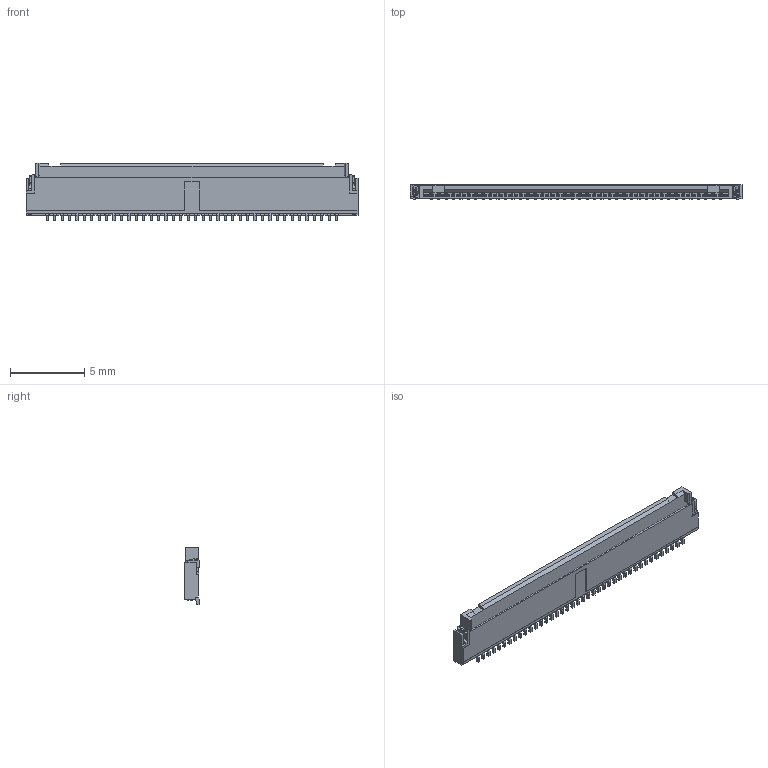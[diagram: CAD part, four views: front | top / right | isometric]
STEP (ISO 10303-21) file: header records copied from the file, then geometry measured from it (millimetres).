
FILE_DESCRIPTION((''),'2;1');
FILE_NAME('S-52532-040XX-XXX_ASM','2021-07-14T',('k41758'),(''),'PRO/ENGINEER BY PARAMETRIC TECHNOLOGY CORPORATION, 2009360','PRO/ENGINEER BY PARAMETRIC TECHNOLOGY CORPORATION, 2009360','');
FILE_SCHEMA(('CONFIG_CONTROL_DESIGN'));
Products named in the file (1): S-52532-040XX-XXX_ASM
Bounding box: 22.37 x 0.96 x 3.85 mm (x, y, z)
Volume: 43.3 mm3; surface area: 481.2 mm2
Topology: 2 solids, 2 shells, 4141 faces, 13300 edges, 8926 vertices
Faces by surface type: plane 2758, cylinder 1383
Entity records: 146409 total; most frequent: CARTESIAN_POINT 26731, ORIENTED_EDGE 26264, DIRECTION 24240, EDGE_CURVE 13132, VECTOR 10130, LINE 10130, VERTEX_POINT 8590, AXIS2_PLACEMENT_3D 7055
